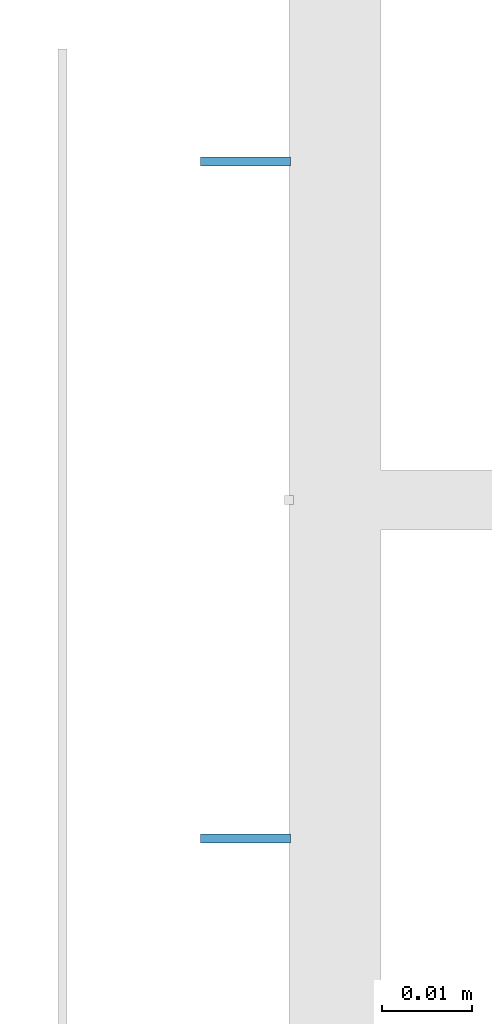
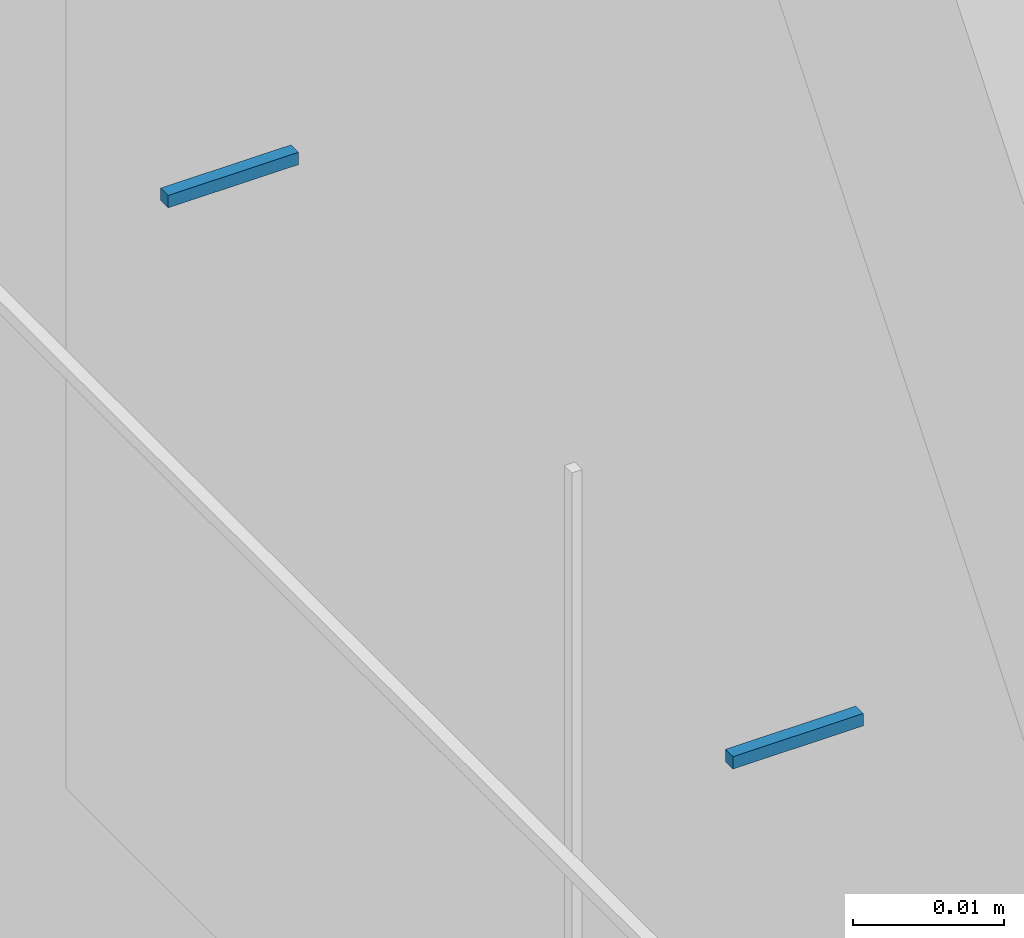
# One storey, part 93 of 186: 2 beams.
"""IFC4X3_ADD2 building model written with IfcOpenShell, lengths in millimetres."""

import ifcopenshell
import ifcopenshell.guid

model = None  # the IFC model being written
_history = None  # IfcOwnerHistory: only IFC2X3 demands one
_inside = {}  # id of a spatial element -> (the spatial element, [elements in it])
_under = {}  # id of a project, library or spatial element -> (it, [spatial elements below it])
_declared = {}  # id of a project -> (the project, [libraries it declares])
_typed = {}  # id of a type object -> (the type object, [elements of that type])
_made_of = {}  # id of a material, layer set ... -> (it, [elements and type objects made of it])


def new_model(schema):
    """Start an empty IFC model of exactly this schema.

    Asked for "IFC4X3", IfcOpenShell would pick the latest addendum, in which some entities
    have other attributes; the version numbers below select the first issue.
    IFC2X3 requires an IfcOwnerHistory on every rooted entity: one is made here for all.
    """
    global model, _history
    if schema == "IFC4X3":
        model = ifcopenshell.file(schema_version=(4, 3, 0, 0))
    else:
        model = ifcopenshell.file(schema=schema)
    _inside.clear()
    _under.clear()
    _declared.clear()
    _typed.clear()
    _made_of.clear()
    _history = None
    if model.schema == "IFC2X3":
        org = make("IfcOrganization", Name="unknown")
        user = make(
            "IfcPersonAndOrganization",
            ThePerson=make("IfcPerson", FamilyName="unknown"),
            TheOrganization=org,
        )
        app = make(
            "IfcApplication",
            ApplicationDeveloper=org,
            Version="unknown",
            ApplicationFullName="unknown",
            ApplicationIdentifier="unknown",
        )
        _history = make(
            "IfcOwnerHistory",
            OwningUser=user,
            OwningApplication=app,
            ChangeAction="ADDED",
            CreationDate=0,
        )
    return model


def make(cls, **values):
    """One entity of the class cls with the attributes given. An attribute that is None is left unset."""
    return model.create_entity(
        cls, **{name: value for name, value in values.items() if value is not None}
    )


def rooted(cls, **values):
    """An entity with a GlobalId (a new one), such as an element, a storey or a relation."""
    return make(cls, GlobalId=ifcopenshell.guid.new(), OwnerHistory=_history, **values)


def si_unit(unit_type, name, prefix=None):
    """IfcSIUnit, for example si_unit("LENGTHUNIT", "METRE", prefix="MILLI")."""
    return make("IfcSIUnit", UnitType=unit_type, Prefix=prefix, Name=name)


def assignment(units):
    """IfcUnitAssignment: the units of a project."""
    return None if units is None else make("IfcUnitAssignment", Units=units)


def point(xyz):
    """IfcCartesianPoint."""
    return None if xyz is None else make("IfcCartesianPoint", Coordinates=xyz)


def direction(xyz):
    """IfcDirection."""
    return None if xyz is None else make("IfcDirection", DirectionRatios=xyz)


def frame(location, z_axis=None, x_axis=None):
    """IfcAxis2Placement3D, a coordinate frame: its origin and axes. An axis left out is left unset."""
    return make(
        "IfcAxis2Placement3D",
        Location=point(location),
        Axis=direction(z_axis),
        RefDirection=direction(x_axis),
    )


def frame_2d(location, x_axis=None):
    """IfcAxis2Placement2D, a coordinate frame in the plane: its origin and x axis."""
    return make(
        "IfcAxis2Placement2D", Location=point(location), RefDirection=direction(x_axis)
    )


def origin_with_axes():
    """The frame at (0, 0, 0) with the z axis (0, 0, 1) and the x axis (1, 0, 0) written out."""
    return frame((0.0, 0.0, 0.0), z_axis=(0.0, 0.0, 1.0), x_axis=(1.0, 0.0, 0.0))


def place(relative_to, where):
    """IfcLocalPlacement: puts the frame where relative to a parent placement (None: the world)."""
    return make(
        "IfcLocalPlacement", PlacementRelTo=relative_to, RelativePlacement=where
    )


def context(
    kind, dimensions, precision=None, world=None, true_north=None, identifier=None
):
    """IfcGeometricRepresentationContext, for example the 3D "Model" context."""
    return make(
        "IfcGeometricRepresentationContext",
        ContextIdentifier=identifier,
        ContextType=kind,
        CoordinateSpaceDimension=dimensions,
        Precision=precision,
        WorldCoordinateSystem=world,
        TrueNorth=true_north,
    )


def subcontext(parent, identifier, kind, view, scale=None):
    """IfcGeometricRepresentationSubContext, for example "Body" below "Model"."""
    return make(
        "IfcGeometricRepresentationSubContext",
        ContextIdentifier=identifier,
        ContextType=kind,
        ParentContext=parent,
        TargetScale=scale,
        TargetView=view,
    )


def project(units=None, contexts=None):
    """IfcProject with its units and contexts."""
    return rooted(
        "IfcProject",
        Name="project",
        RepresentationContexts=contexts,
        UnitsInContext=assignment(units),
    )


def spatial(cls, under=None, at=None, **own):
    """A site, building, storey or space (cls), placed at a placement, below another one or the project."""
    s = rooted(cls, ObjectPlacement=at, **own)
    if under is not None:
        _under.setdefault(under.id(), (under, []))[1].append(s)
    return s


def profile(cls, at=None, kind="AREA", **sizes):
    """A parametric profile (cls). Its sizes go by their IFC names, for example OverallWidth=200.0."""
    return make(cls, ProfileType=kind, Position=at, **sizes)


def rectangle(**sizes):
    """IfcRectangleProfileDef."""
    return profile("IfcRectangleProfileDef", **sizes)


def extrude(swept, where, along, depth):
    """IfcExtrudedAreaSolid: the profile swept, set in the frame where, extruded along a direction by depth."""
    return make(
        "IfcExtrudedAreaSolid",
        SweptArea=swept,
        Position=where,
        ExtrudedDirection=direction(along),
        Depth=depth,
    )


def shape(context_of_items, identifier, shape_type, items):
    """IfcShapeRepresentation: the items that make up one representation, for example the "Body"."""
    return make(
        "IfcShapeRepresentation",
        ContextOfItems=context_of_items,
        RepresentationIdentifier=identifier,
        RepresentationType=shape_type,
        Items=items,
    )


def material(Name=None, Category=None):
    """IfcMaterial."""
    return make("IfcMaterial", Name=Name, Category=Category)


def made_of(thing, what):
    """Note that an element or type object is made of a material, layer set ...; save() writes the relation."""
    if what is not None:
        _made_of.setdefault(what.id(), (what, []))[1].append(thing)
    return thing


def element(
    cls,
    number,
    at=None,
    inside=None,
    cuts=None,
    type_object=None,
    material=None,
    context=None,
    identifier="Body",
    shape_type=None,
    held_by="IfcProductDefinitionShape",
    body=None,
    shapes=None,
    **own,
):
    """One element of the class cls, such as IfcWall. Its Tag is "e" and its number.

    at: its placement. inside: the storey or other place that contains it. cuts: it is an
    opening in that element (IfcRelVoidsElement). A single representation is given by context,
    identifier, shape_type and body (its items); several are given by shapes. held_by: the class
    of the entity that holds the representations. save() writes the other relations.
    """
    e = rooted(cls, Tag="e%d" % number, ObjectPlacement=at, **own)
    if body is not None:
        shapes = [shape(context, identifier, shape_type, body)]
    if shapes is not None:
        e.Representation = make(held_by, Representations=shapes)
    if inside is not None:
        _inside.setdefault(inside.id(), (inside, []))[1].append(e)
    if cuts is not None:
        rooted(
            "IfcRelVoidsElement", RelatingBuildingElement=cuts, RelatedOpeningElement=e
        )
    if type_object is not None:
        _typed.setdefault(type_object.id(), (type_object, []))[1].append(e)
    return made_of(e, material)


def aggregate(whole, parts):
    """IfcRelAggregates: a whole, such as a stair, and the parts it consists of."""
    return rooted("IfcRelAggregates", RelatingObject=whole, RelatedObjects=parts)


def save(model, path):
    """Write the relations noted so far, then the file.

    IfcRelAggregates (storeys below a building ...), IfcRelContainedInSpatialStructure (elements
    in a storey), IfcRelDefinesByType, IfcRelAssociatesMaterial and IfcRelDeclares: one each for
    every whole, place, type object, material and project.
    """
    for whole, parts in _under.values():
        aggregate(whole, parts)
    for where, things in _inside.values():
        rooted(
            "IfcRelContainedInSpatialStructure",
            RelatedElements=things,
            RelatingStructure=where,
        )
    for kind, things in _typed.values():
        rooted("IfcRelDefinesByType", RelatedObjects=things, RelatingType=kind)
    for what, things in _made_of.values():
        rooted("IfcRelAssociatesMaterial", RelatedObjects=things, RelatingMaterial=what)
    for by, libraries in _declared.values():
        rooted("IfcRelDeclares", RelatingContext=by, RelatedDefinitions=libraries)
    model.write(path)


model = new_model("IFC4X3_ADD2")

# Units and contexts
model_context = context("Model", 3, precision=1e-05, world=origin_with_axes(), true_north=direction((0.0, 1.0)))
body_context = subcontext(model_context, "Body", "Model", "MODEL_VIEW")
ifc_project = project(units=[si_unit("LENGTHUNIT", "METRE", prefix="MILLI"), si_unit("AREAUNIT", "SQUARE_METRE"), si_unit("VOLUMEUNIT", "CUBIC_METRE"), si_unit("PLANEANGLEUNIT", "RADIAN"), si_unit("TIMEUNIT", "SECOND"), si_unit("MASSUNIT", "GRAM")], contexts=[model_context])

# Site, building, storey
site_placement = place(None, origin_with_axes())
site = spatial("IfcSite", under=ifc_project, at=site_placement, Name="Site", CompositionType="ELEMENT")
building_placement = place(site_placement, origin_with_axes())
building = spatial("IfcBuilding", under=site, at=building_placement, Name="IFC Building Story")
storey_placement = place(building_placement, frame((0.0, 0.0, 4370.0), z_axis=(0.0, 0.0, 1.0), x_axis=(1.0, 0.0, 0.0)))
storey = spatial("IfcBuildingStorey", under=building, at=storey_placement, Name="ETAGE 10 (1)", Elevation=4370.0)

# Beams
ifc_material = material(Name="STEEL/Accessory_invisible")
for number, where, z_axis, x_axis, name in (
    (1, (48494.4886362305, 12282.5006109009, 3809.5), (-1.0, 0.0, 0.0), (0.0, -1.0, 0.0), "MP21"),
    (2, (48494.4886362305, 12357.5006109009, 3809.5), (-1.0, 0.0, 0.0), (0.0, -1.0, 0.0), "MP21"),
):
    element("IfcBeam", number, at=place(storey_placement, frame(where, z_axis=z_axis, x_axis=x_axis)), inside=storey, material=ifc_material, Name=name, ObjectType="1*1 3", context=body_context, shape_type="SweptSolid", body=[
        extrude(rectangle(XDim=0.9999999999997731, YDim=0.9999999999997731, at=frame_2d((0.0, 5.95523630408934e-12), x_axis=(1.0, 0.0))), origin_with_axes(), (0.0, 0.0, 1.0), 10.0),
    ])

save(model, "model.ifc")
